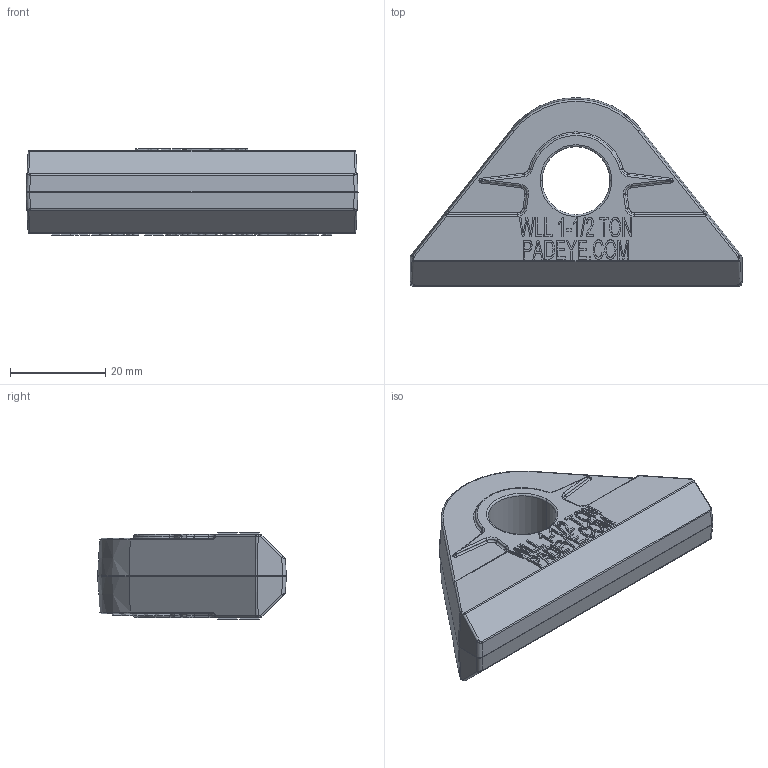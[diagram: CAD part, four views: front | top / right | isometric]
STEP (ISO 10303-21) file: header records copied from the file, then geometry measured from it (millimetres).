
FILE_DESCRIPTION (( 'STEP AP214' ), '1' );
FILE_NAME ('CSC.STEP', '2024-04-23T14:14:12', ( '' ), ( '' ), 'SwSTEP 2.0', 'SolidWorks 2018', '' );
FILE_SCHEMA (( 'AUTOMOTIVE_DESIGN' ));
Length unit declared in the file: inch
Products named in the file (1): CSC
Bounding box: 69.85 x 39.69 x 18.22 mm (x, y, z)
Volume: 26698 mm3; surface area: 7184.3 mm2
Topology: 1 solids, 1 shells, 1215 faces, 3198 edges, 2074 vertices
Faces by surface type: plane 763, bspline 293, cylinder 96, torus 46, sphere 15, cone 2
Entity records: 49048 total; most frequent: CARTESIAN_POINT 20939, ORIENTED_EDGE 6372, DIRECTION 4702, EDGE_CURVE 3186, LINE 2344, VECTOR 2344, VERTEX_POINT 2074, EDGE_LOOP 1318
